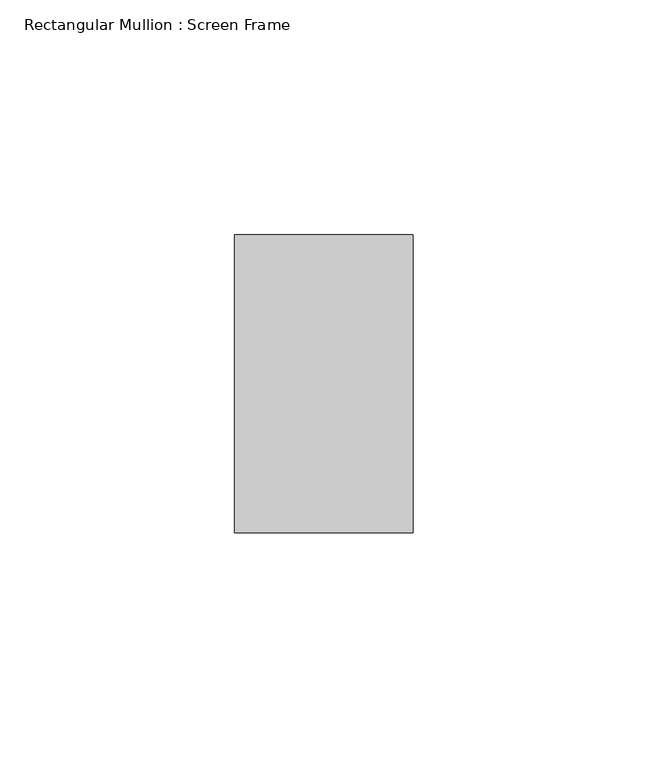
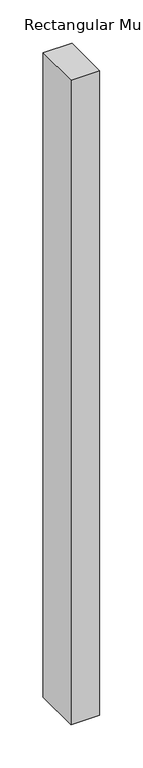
"""IFC4 building model written with IfcOpenShell, lengths in millimetres: member geometry, Rectangular Mullion : Screen Frame."""

from ifc_helpers import new_model, si_unit, frame, origin, place, context, project, spatial, polyline, outline, extrude, source, transform, mapped, element, save


def rectangular_mullion_screen_frame_ee6aec00(model_context):
    return source(origin(), model_context, "Body", "SweptSolid", [
        extrude(outline(polyline([(0.0, 31.75), (0.0, -31.75), (-38.1, -31.75), (-38.1, 31.75), (0.0, 31.75)])), frame((0.0, 0.0, -904.1892), z_axis=(0.0, 0.0, 1.0), x_axis=(1.0, 0.0, 0.0)), (0.0, 0.0, 1.0), 904.1892),
    ])


if __name__ == "__main__":
    model = new_model("IFC4")
    model_context = context("Model", 3, world=origin())
    ifc_project = project(units=[si_unit("LENGTHUNIT", "METRE", prefix="MILLI")], contexts=[model_context])
    site = spatial("IfcSite", under=ifc_project)
    building = spatial("IfcBuilding", under=site)
    placement = place(None, origin())
    rectangular_mullion_screen_frame_shape = rectangular_mullion_screen_frame_ee6aec00(model_context)
    element("IfcMember", 1, ObjectType="Rectangular Mullion : Screen Frame", at=placement, inside=building, context=model_context, shape_type="MappedRepresentation", body=[
        mapped(rectangular_mullion_screen_frame_shape, transform((0.0, 0.0, 0.0), x_axis=(1.0, 0.0, 0.0), y_axis=(0.0, 1.0, 0.0), z_axis=(0.0, 0.0, 1.0))),
    ])
    save(model, "model.ifc")
